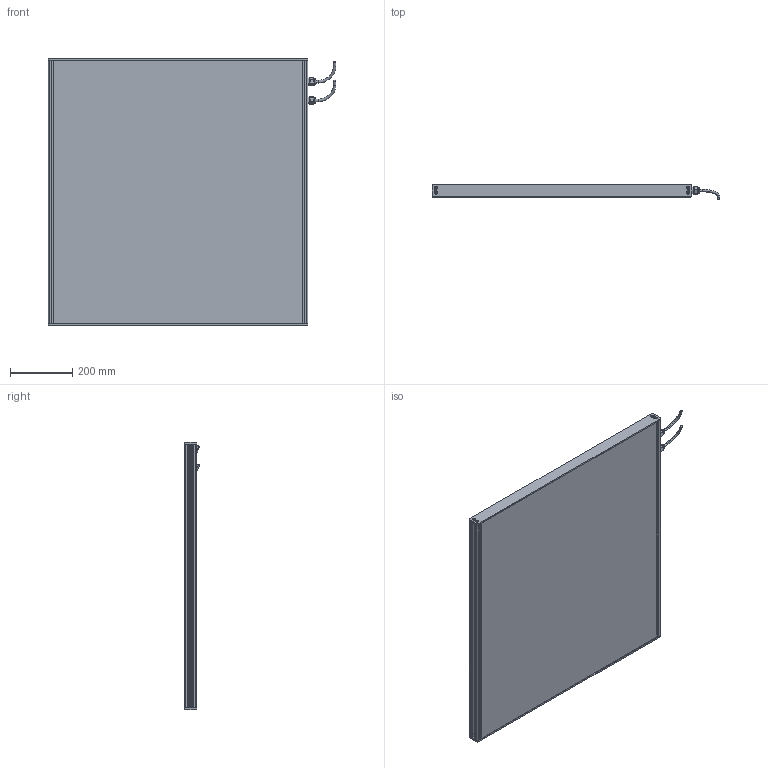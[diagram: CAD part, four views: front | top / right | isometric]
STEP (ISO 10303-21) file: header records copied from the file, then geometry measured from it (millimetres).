
FILE_DESCRIPTION (( 'STEP AP214' ), '1' );
FILE_NAME ('EFFI-BL-800-850T-2M12P.STEP', '2021-07-02T10:39:48', ( '' ), ( '' ), 'SwSTEP 2.0', 'SolidWorks 2021', '' );
FILE_SCHEMA (( 'AUTOMOTIVE_DESIGN' ));
Length unit declared in the file: millimetre
Products named in the file (7): EFFI-BL-800-850T-2M12P; profile modif_lg 99.5 mm; bord fin modif_lg 436.5 mm; M12 power; 003776; Pièce2^EFFI-BL-XXX-YYYT + 2 M12P
Assembly tree (15 placements, depth 2):
  EFFI-BL-800-850T-2M12P
    bord fin modif_lg 436.5 mm  x2
    profile modif_lg 99.5 mm
    Pièce2^EFFI-BL-XXX-YYYT + 2 M12P
    profile modif_lg 99.5 mm
    M12 power  x2
    003776  x8
Bounding box: 926.45 x 49.72 x 860 mm (x, y, z)
Volume: 24821935.6 mm3; surface area: 1884707.6 mm2
Topology: 13 solids, 19 shells, 625 faces, 1582 edges, 1014 vertices
Faces by surface type: plane 360, bspline 125, cylinder 112, cone 20, torus 8
Entity records: 15910 total; most frequent: CARTESIAN_POINT 5250, ORIENTED_EDGE 2128, DIRECTION 1806, EDGE_CURVE 1066, LINE 780, VECTOR 780, VERTEX_POINT 703, AXIS2_PLACEMENT_3D 513
